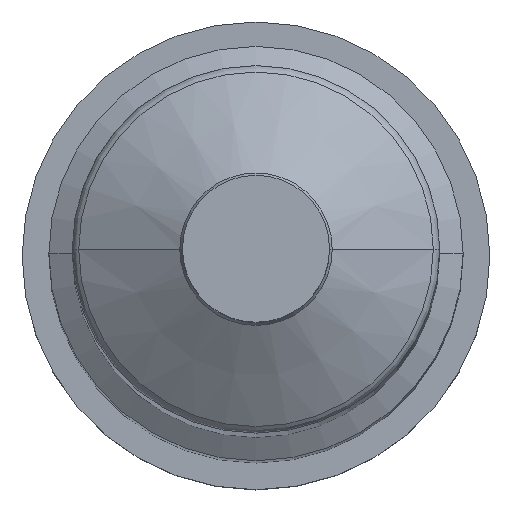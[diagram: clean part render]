
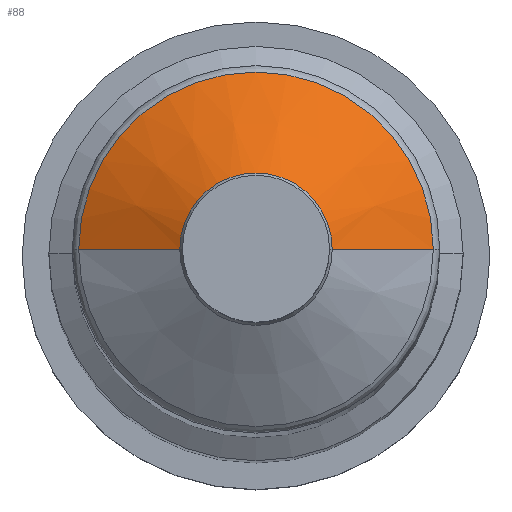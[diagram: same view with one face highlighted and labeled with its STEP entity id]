
A CAD part, top view. The second image highlights one B-rep face of the part: STEP entity #88.
In plain terms, the highlighted conical face has half-angle 59 degrees and reference radius 26.53 mm.
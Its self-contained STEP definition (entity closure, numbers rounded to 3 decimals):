
#39 = ORIENTED_EDGE ( 'NONE', *, *, #469, .T. ) ;
#43 = AXIS2_PLACEMENT_3D ( 'NONE', #95, #423, #353 ) ;
#52 = AXIS2_PLACEMENT_3D ( 'NONE', #80, #525, #140 ) ;
#80 = CARTESIAN_POINT ( 'NONE',  ( 0., 0., 606.3 ) ) ;
#86 = VERTEX_POINT ( 'NONE', #247 ) ;
#88 = ADVANCED_FACE ( 'NONE', ( #239 ), #491, .T. ) ;
#95 = CARTESIAN_POINT ( 'NONE',  ( 0., 0., 597.211 ) ) ;
#140 = DIRECTION ( 'NONE',  ( -1., 0., 0. ) ) ;
#149 = CARTESIAN_POINT ( 'NONE',  ( 26.53, 0., 597.211 ) ) ;
#153 = CIRCLE ( 'NONE', #52, 11.404 ) ;
#192 = DIRECTION ( 'NONE',  ( 0.857, 0., -0.515 ) ) ;
#193 = EDGE_CURVE ( 'NONE', #374, #197, #453, .T. ) ;
#197 = VERTEX_POINT ( 'NONE', #468 ) ;
#203 = VECTOR ( 'NONE', #336, 1000. ) ;
#211 = CARTESIAN_POINT ( 'NONE',  ( -26.53, 0., 597.211 ) ) ;
#222 = EDGE_CURVE ( 'NONE', #374, #86, #153, .T. ) ;
#230 = EDGE_CURVE ( 'NONE', #197, #547, #292, .T. ) ;
#239 = FACE_OUTER_BOUND ( 'NONE', #474, .T. ) ;
#247 = CARTESIAN_POINT ( 'NONE',  ( 11.404, 0., 606.3 ) ) ;
#288 = ORIENTED_EDGE ( 'NONE', *, *, #193, .F. ) ;
#292 = CIRCLE ( 'NONE', #43, 26.53 ) ;
#299 = VECTOR ( 'NONE', #192, 1000. ) ;
#300 = ORIENTED_EDGE ( 'NONE', *, *, #230, .F. ) ;
#308 = LINE ( 'NONE', #149, #299 ) ;
#321 = AXIS2_PLACEMENT_3D ( 'NONE', #545, #502, #381 ) ;
#336 = DIRECTION ( 'NONE',  ( -0.857, 0., -0.515 ) ) ;
#345 = ORIENTED_EDGE ( 'NONE', *, *, #222, .T. ) ;
#347 = CARTESIAN_POINT ( 'NONE',  ( -11.404, 0., 606.3 ) ) ;
#353 = DIRECTION ( 'NONE',  ( -1., 0., 0. ) ) ;
#374 = VERTEX_POINT ( 'NONE', #347 ) ;
#381 = DIRECTION ( 'NONE',  ( -1., 0., 0. ) ) ;
#423 = DIRECTION ( 'NONE',  ( 0., 0., -1. ) ) ;
#453 = LINE ( 'NONE', #211, #203 ) ;
#468 = CARTESIAN_POINT ( 'NONE',  ( -26.53, 0., 597.211 ) ) ;
#469 = EDGE_CURVE ( 'NONE', #86, #547, #308, .T. ) ;
#474 = EDGE_LOOP ( 'NONE', ( #345, #39, #300, #288 ) ) ;
#491 = CONICAL_SURFACE ( 'NONE', #321, 26.53, 1.03 ) ;
#499 = CARTESIAN_POINT ( 'NONE',  ( 26.53, 0., 597.211 ) ) ;
#502 = DIRECTION ( 'NONE',  ( 0., 0., -1. ) ) ;
#525 = DIRECTION ( 'NONE',  ( 0., 0., -1. ) ) ;
#545 = CARTESIAN_POINT ( 'NONE',  ( 0., 0., 597.211 ) ) ;
#547 = VERTEX_POINT ( 'NONE', #499 ) ;
